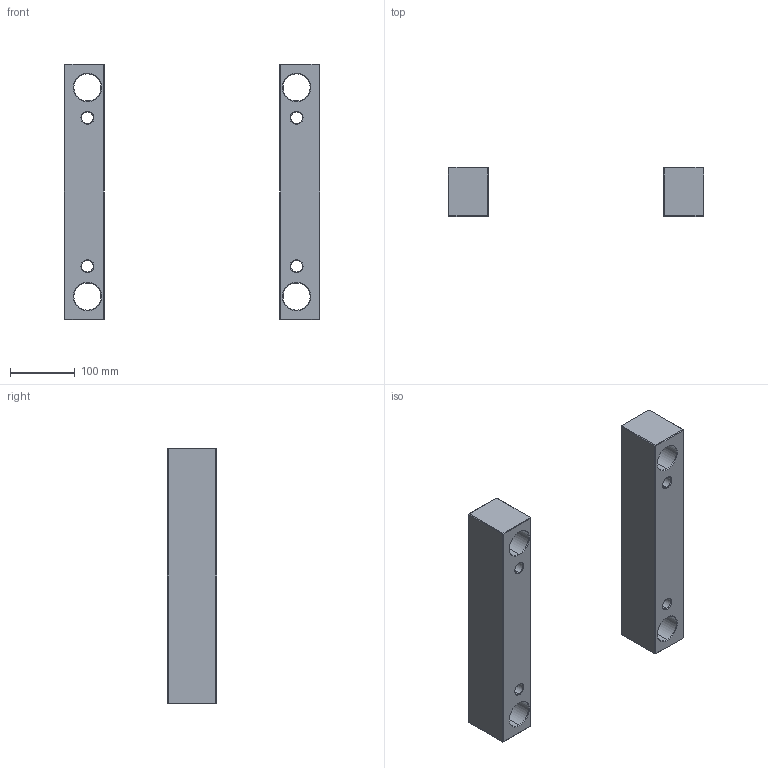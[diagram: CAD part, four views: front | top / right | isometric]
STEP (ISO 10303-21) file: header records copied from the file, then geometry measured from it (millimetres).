
FILE_DESCRIPTION (( 'STEP AP214' ), '1' );
FILE_NAME ('ESP-EU-396X396x76.STEP', '2020-04-16T11:27:58', ( 'August' ), ( '' ), 'SwSTEP 2.0', 'SolidWorks 2018', '' );
FILE_SCHEMA (( 'AUTOMOTIVE_DESIGN' ));
Length unit declared in the file: millimetre
Products named in the file (1): ESP-EU-396X396x76
Bounding box: 396 x 76 x 396 mm (x, y, z)
Volume: 3230474.9 mm3; surface area: 278252.3 mm2
Topology: 2 solids, 2 shells, 100 faces, 208 edges, 112 vertices
Faces by surface type: plane 52, cone 32, cylinder 16
Entity records: 2631 total; most frequent: DIRECTION 474, CARTESIAN_POINT 421, ORIENTED_EDGE 416, EDGE_CURVE 208, AXIS2_PLACEMENT_3D 165, VECTOR 144, LINE 144, EDGE_LOOP 116
